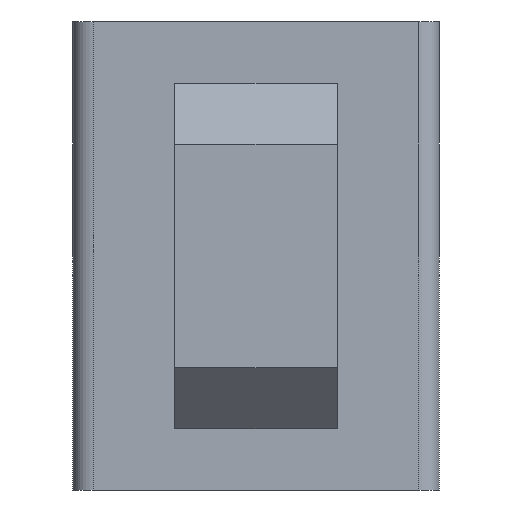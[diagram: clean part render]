
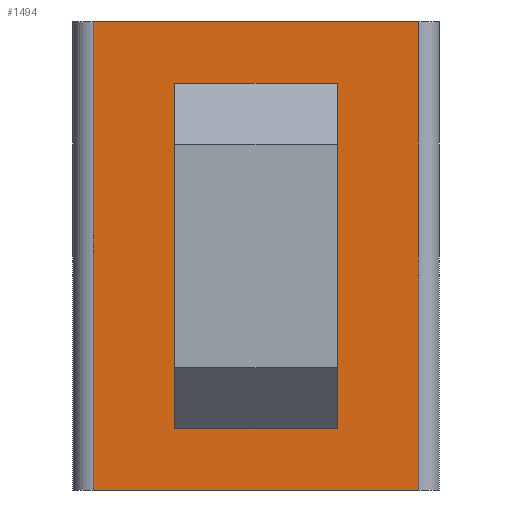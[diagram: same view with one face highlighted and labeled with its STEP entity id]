
A CAD part, front view. The second image highlights one B-rep face of the part: STEP entity #1494.
In plain terms, the highlighted planar face has unit normal (0, -1, 0).
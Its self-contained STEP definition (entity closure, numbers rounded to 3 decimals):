
#23 = EDGE_CURVE ( 'NONE', #1276, #458, #1426, .T. ) ;
#32 = DIRECTION ( 'NONE',  ( -1., 0., 0. ) ) ;
#33 = LINE ( 'NONE', #498, #775 ) ;
#37 = DIRECTION ( 'NONE',  ( 0., 0., 1. ) ) ;
#78 = CARTESIAN_POINT ( 'NONE',  ( -9., -11.5, 4.75 ) ) ;
#81 = CARTESIAN_POINT ( 'NONE',  ( -8., -11.5, -11.5 ) ) ;
#115 = EDGE_LOOP ( 'NONE', ( #489, #323, #441, #686 ) ) ;
#151 = CARTESIAN_POINT ( 'NONE',  ( -9., -11.5, -4.75 ) ) ;
#212 = DIRECTION ( 'NONE',  ( -1., 0., 0. ) ) ;
#221 = ORIENTED_EDGE ( 'NONE', *, *, #23, .F. ) ;
#228 = ORIENTED_EDGE ( 'NONE', *, *, #508, .T. ) ;
#323 = ORIENTED_EDGE ( 'NONE', *, *, #700, .T. ) ;
#371 = EDGE_CURVE ( 'NONE', #1405, #524, #33, .T. ) ;
#399 = DIRECTION ( 'NONE',  ( 0., 1., 0. ) ) ;
#406 = VECTOR ( 'NONE', #553, 1000. ) ;
#413 = CARTESIAN_POINT ( 'NONE',  ( 1., -11.5, -4.75 ) ) ;
#414 = ORIENTED_EDGE ( 'NONE', *, *, #1469, .F. ) ;
#423 = VECTOR ( 'NONE', #1162, 1000. ) ;
#438 = LINE ( 'NONE', #151, #494 ) ;
#441 = ORIENTED_EDGE ( 'NONE', *, *, #1286, .T. ) ;
#445 = EDGE_LOOP ( 'NONE', ( #1516, #228, #1396, #221, #907, #414 ) ) ;
#458 = VERTEX_POINT ( 'NONE', #1227 ) ;
#459 = FACE_BOUND ( 'NONE', #445, .T. ) ;
#468 = DIRECTION ( 'NONE',  ( 1., 0., 0. ) ) ;
#489 = ORIENTED_EDGE ( 'NONE', *, *, #846, .F. ) ;
#494 = VECTOR ( 'NONE', #1468, 1000. ) ;
#498 = CARTESIAN_POINT ( 'NONE',  ( -4., -11.5, -8.5 ) ) ;
#508 = EDGE_CURVE ( 'NONE', #1405, #1284, #755, .T. ) ;
#524 = VERTEX_POINT ( 'NONE', #1124 ) ;
#553 = DIRECTION ( 'NONE',  ( 0., 0., 1. ) ) ;
#584 = VECTOR ( 'NONE', #37, 1000. ) ;
#591 = EDGE_CURVE ( 'NONE', #1353, #1107, #1087, .T. ) ;
#619 = DIRECTION ( 'NONE',  ( 1., 0., 0. ) ) ;
#624 = PLANE ( 'NONE',  #1506 ) ;
#657 = VECTOR ( 'NONE', #468, 1000. ) ;
#675 = VERTEX_POINT ( 'NONE', #413 ) ;
#677 = CARTESIAN_POINT ( 'NONE',  ( 8., -11.5, 11.5 ) ) ;
#686 = ORIENTED_EDGE ( 'NONE', *, *, #591, .T. ) ;
#700 = EDGE_CURVE ( 'NONE', #1556, #784, #857, .T. ) ;
#709 = CIRCLE ( 'NONE', #1233, 3. ) ;
#729 = CARTESIAN_POINT ( 'NONE',  ( -1., -11.5, 1.75 ) ) ;
#744 = DIRECTION ( 'NONE',  ( 0., 1., 0. ) ) ;
#751 = LINE ( 'NONE', #995, #966 ) ;
#753 = CARTESIAN_POINT ( 'NONE',  ( -8., -11.5, 11.5 ) ) ;
#755 = CIRCLE ( 'NONE', #1161, 3. ) ;
#769 = FACE_OUTER_BOUND ( 'NONE', #115, .T. ) ;
#775 = VECTOR ( 'NONE', #1103, 1000. ) ;
#784 = VERTEX_POINT ( 'NONE', #81 ) ;
#785 = EDGE_CURVE ( 'NONE', #1284, #458, #893, .T. ) ;
#846 = EDGE_CURVE ( 'NONE', #1556, #1107, #751, .T. ) ;
#857 = LINE ( 'NONE', #1283, #423 ) ;
#883 = CARTESIAN_POINT ( 'NONE',  ( 9., -11.5, 11.5 ) ) ;
#893 = LINE ( 'NONE', #78, #1260 ) ;
#907 = ORIENTED_EDGE ( 'NONE', *, *, #1182, .T. ) ;
#941 = CARTESIAN_POINT ( 'NONE',  ( -1., -11.5, 4.75 ) ) ;
#956 = CARTESIAN_POINT ( 'NONE',  ( 1., -11.5, -1.75 ) ) ;
#966 = VECTOR ( 'NONE', #1467, 1000. ) ;
#977 = CARTESIAN_POINT ( 'NONE',  ( -4., -11.5, 1.75 ) ) ;
#995 = CARTESIAN_POINT ( 'NONE',  ( 9., -11.5, 11.5 ) ) ;
#1087 = LINE ( 'NONE', #1269, #584 ) ;
#1101 = LINE ( 'NONE', #1215, #657 ) ;
#1103 = DIRECTION ( 'NONE',  ( 0., 0., -1. ) ) ;
#1107 = VERTEX_POINT ( 'NONE', #677 ) ;
#1124 = CARTESIAN_POINT ( 'NONE',  ( -4., -11.5, -4.75 ) ) ;
#1161 = AXIS2_PLACEMENT_3D ( 'NONE', #729, #399, #32 ) ;
#1162 = DIRECTION ( 'NONE',  ( 0., 0., -1. ) ) ;
#1182 = EDGE_CURVE ( 'NONE', #1276, #675, #709, .T. ) ;
#1215 = CARTESIAN_POINT ( 'NONE',  ( 9., -11.5, -11.5 ) ) ;
#1222 = CARTESIAN_POINT ( 'NONE',  ( 8., -11.5, -11.5 ) ) ;
#1227 = CARTESIAN_POINT ( 'NONE',  ( 4., -11.5, 4.75 ) ) ;
#1233 = AXIS2_PLACEMENT_3D ( 'NONE', #956, #1427, #212 ) ;
#1238 = DIRECTION ( 'NONE',  ( -1., 0., 0. ) ) ;
#1260 = VECTOR ( 'NONE', #619, 1000. ) ;
#1269 = CARTESIAN_POINT ( 'NONE',  ( 8., -11.5, 11.5 ) ) ;
#1276 = VERTEX_POINT ( 'NONE', #1543 ) ;
#1283 = CARTESIAN_POINT ( 'NONE',  ( -8., -11.5, 11.5 ) ) ;
#1284 = VERTEX_POINT ( 'NONE', #941 ) ;
#1286 = EDGE_CURVE ( 'NONE', #784, #1353, #1101, .T. ) ;
#1353 = VERTEX_POINT ( 'NONE', #1222 ) ;
#1380 = CARTESIAN_POINT ( 'NONE',  ( 4., -11.5, -8.5 ) ) ;
#1396 = ORIENTED_EDGE ( 'NONE', *, *, #785, .T. ) ;
#1405 = VERTEX_POINT ( 'NONE', #977 ) ;
#1426 = LINE ( 'NONE', #1380, #406 ) ;
#1427 = DIRECTION ( 'NONE',  ( 0., 1., 0. ) ) ;
#1467 = DIRECTION ( 'NONE',  ( 1., 0., 0. ) ) ;
#1468 = DIRECTION ( 'NONE',  ( 1., 0., 0. ) ) ;
#1469 = EDGE_CURVE ( 'NONE', #524, #675, #438, .T. ) ;
#1494 = ADVANCED_FACE ( 'NONE', ( #769, #459 ), #624, .F. ) ;
#1506 = AXIS2_PLACEMENT_3D ( 'NONE', #883, #744, #1238 ) ;
#1516 = ORIENTED_EDGE ( 'NONE', *, *, #371, .F. ) ;
#1543 = CARTESIAN_POINT ( 'NONE',  ( 4., -11.5, -1.75 ) ) ;
#1556 = VERTEX_POINT ( 'NONE', #753 ) ;
